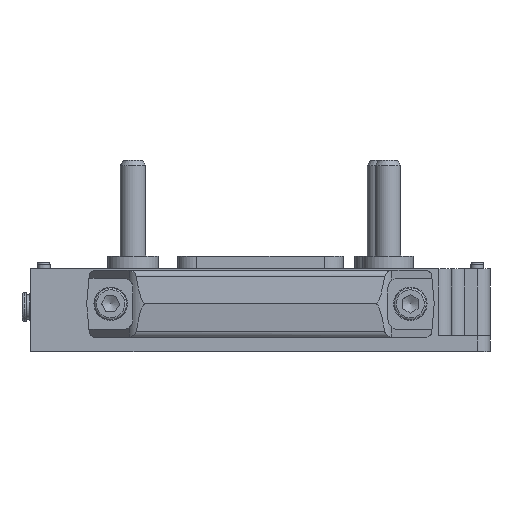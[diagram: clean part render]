
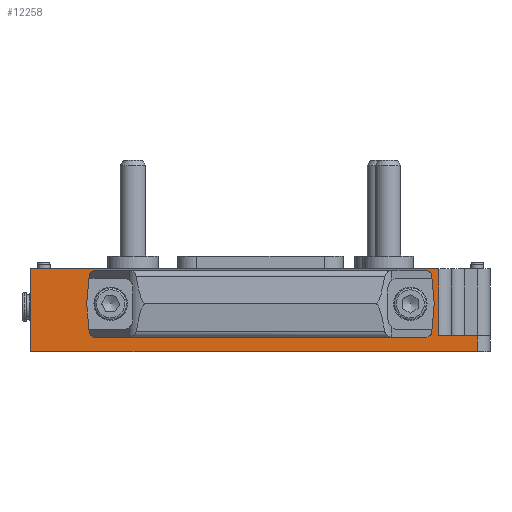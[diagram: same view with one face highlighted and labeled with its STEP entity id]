
A CAD part, left-side view. The second image highlights one B-rep face of the part: STEP entity #12258.
In plain terms, the highlighted planar face has unit normal (-1, 0, 0).
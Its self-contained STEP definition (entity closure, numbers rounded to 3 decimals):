
#358=CIRCLE('',#13016,3.1);
#361=CIRCLE('',#13022,3.1);
#844=FACE_BOUND('',#4206,.T.);
#845=FACE_BOUND('',#4207,.T.);
#1343=LINE('',#22075,#2402);
#1345=LINE('',#22081,#2404);
#1346=LINE('',#22083,#2405);
#1347=LINE('',#22085,#2406);
#1348=LINE('',#22087,#2407);
#1349=LINE('',#22088,#2408);
#2402=VECTOR('',#14609,10.);
#2404=VECTOR('',#14615,10.);
#2405=VECTOR('',#14616,10.);
#2406=VECTOR('',#14617,10.);
#2407=VECTOR('',#14618,10.);
#2408=VECTOR('',#14619,10.);
#3467=FACE_OUTER_BOUND('',#4205,.T.);
#4205=EDGE_LOOP('',(#9366,#9367,#9368,#9369,#9370,#9371));
#4206=EDGE_LOOP('',(#9372));
#4207=EDGE_LOOP('',(#9373));
#5493=VERTEX_POINT('',#22024);
#5497=VERTEX_POINT('',#22037);
#5508=VERTEX_POINT('',#22072);
#5509=VERTEX_POINT('',#22074);
#5511=VERTEX_POINT('',#22080);
#5512=VERTEX_POINT('',#22082);
#5513=VERTEX_POINT('',#22084);
#5514=VERTEX_POINT('',#22086);
#6891=EDGE_CURVE('',#5493,#5493,#358,.T.);
#6897=EDGE_CURVE('',#5497,#5497,#361,.T.);
#6914=EDGE_CURVE('',#5508,#5509,#1343,.T.);
#6917=EDGE_CURVE('',#5509,#5511,#1345,.T.);
#6918=EDGE_CURVE('',#5508,#5512,#1346,.T.);
#6919=EDGE_CURVE('',#5513,#5512,#1347,.T.);
#6920=EDGE_CURVE('',#5513,#5514,#1348,.T.);
#6921=EDGE_CURVE('',#5511,#5514,#1349,.T.);
#9366=ORIENTED_EDGE('',*,*,#6917,.F.);
#9367=ORIENTED_EDGE('',*,*,#6914,.F.);
#9368=ORIENTED_EDGE('',*,*,#6918,.T.);
#9369=ORIENTED_EDGE('',*,*,#6919,.F.);
#9370=ORIENTED_EDGE('',*,*,#6920,.T.);
#9371=ORIENTED_EDGE('',*,*,#6921,.F.);
#9372=ORIENTED_EDGE('',*,*,#6891,.T.);
#9373=ORIENTED_EDGE('',*,*,#6897,.T.);
#11711=PLANE('',#13040);
#12258=ADVANCED_FACE('',(#3467,#844,#845),#11711,.T.);
#13016=AXIS2_PLACEMENT_3D('',#22025,#14552,#14553);
#13022=AXIS2_PLACEMENT_3D('',#22038,#14567,#14568);
#13040=AXIS2_PLACEMENT_3D('',#22079,#14613,#14614);
#14552=DIRECTION('center_axis',(1.,0.,0.));
#14553=DIRECTION('ref_axis',(0.,0.,-1.));
#14567=DIRECTION('center_axis',(1.,0.,0.));
#14568=DIRECTION('ref_axis',(0.,0.,-1.));
#14609=DIRECTION('',(0.,0.,-1.));
#14613=DIRECTION('center_axis',(-1.,0.,0.));
#14614=DIRECTION('ref_axis',(0.,-1.,0.));
#14615=DIRECTION('',(0.,-1.,0.));
#14616=DIRECTION('',(0.,1.,0.));
#14617=DIRECTION('',(0.,0.,1.));
#14618=DIRECTION('',(0.,-1.,0.));
#14619=DIRECTION('',(0.,0.,-1.));
#22024=CARTESIAN_POINT('',(-75.,-47.,18.1));
#22025=CARTESIAN_POINT('Origin',(-75.,-47.,15.));
#22037=CARTESIAN_POINT('',(-75.,47.,18.1));
#22038=CARTESIAN_POINT('Origin',(-75.,47.,15.));
#22072=CARTESIAN_POINT('',(-75.,-56.,26.));
#22074=CARTESIAN_POINT('',(-75.,-56.,5.));
#22075=CARTESIAN_POINT('',(-75.,-56.,0.));
#22079=CARTESIAN_POINT('Origin',(-75.,60.,0.));
#22080=CARTESIAN_POINT('',(-75.,-68.,5.));
#22081=CARTESIAN_POINT('',(-75.,-60.,5.));
#22082=CARTESIAN_POINT('',(-75.,72.,26.));
#22083=CARTESIAN_POINT('',(-75.,30.,26.));
#22084=CARTESIAN_POINT('',(-75.,72.,0.));
#22085=CARTESIAN_POINT('',(-75.,72.,0.));
#22086=CARTESIAN_POINT('',(-75.,-68.,0.));
#22087=CARTESIAN_POINT('',(-75.,72.,0.));
#22088=CARTESIAN_POINT('',(-75.,-68.,0.));
